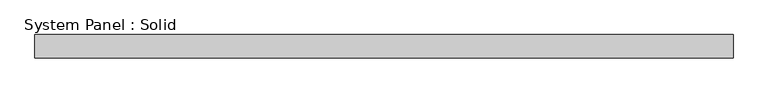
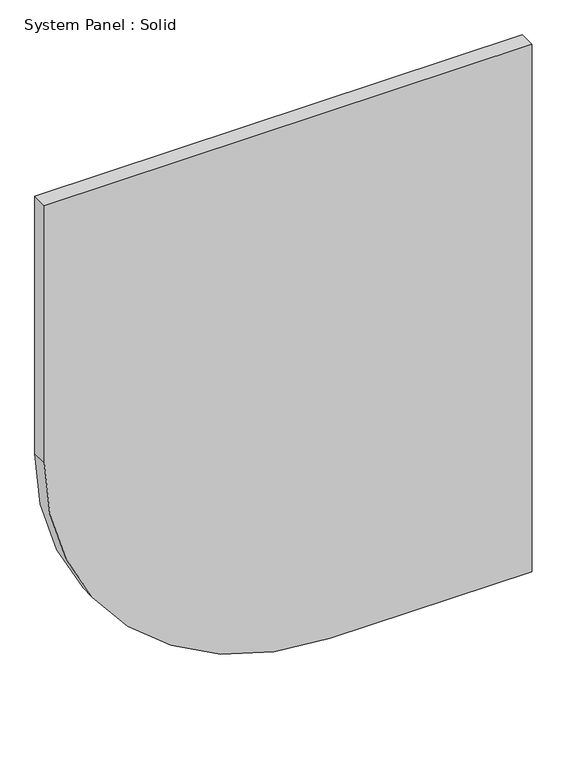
"""IFC4 building model written with IfcOpenShell, lengths in millimetres: plate geometry, System Panel : Solid."""

from ifc_helpers import new_model, si_unit, point, frame, frame_2d, origin, place, context, project, spatial, polyline, circle_curve, trimmed, segment, composite_curve, outline, extrude, source, transform, mapped, element, save


def system_panel_solid_e6f4403d(model_context):
    return source(origin(), model_context, "Body", "SweptSolid", [
        extrude(outline(composite_curve([segment(polyline([(0.0, 89.9999998), (0.0, 525.0000002), (1200.0, 525.0000002), (1200.0, -525.0000002), (615.0, -525.0000002)]), True, "CONTINUOUS"), segment(trimmed(circle_curve(frame_2d((615.0, 89.9999998)), 615.0), [point((615.0, -525.0000002))], [point((0.0, 89.9999998))], False, "CARTESIAN"), True, "CONTINUOUS")], self_intersect=False)), frame((0.0, -2.5, 0.0), z_axis=(0.0, 1.0, 0.0), x_axis=(0.0, 0.0, 1.0)), (0.0, 0.0, 1.0), 35.0),
    ])


if __name__ == "__main__":
    model = new_model("IFC4")
    model_context = context("Model", 3, world=origin())
    ifc_project = project(units=[si_unit("LENGTHUNIT", "METRE", prefix="MILLI")], contexts=[model_context])
    site = spatial("IfcSite", under=ifc_project)
    building = spatial("IfcBuilding", under=site)
    placement = place(None, origin())
    system_panel_solid_shape = system_panel_solid_e6f4403d(model_context)
    element("IfcPlate", 1, ObjectType="System Panel : Solid", at=placement, inside=building, context=model_context, shape_type="MappedRepresentation", body=[
        mapped(system_panel_solid_shape, transform((0.0, 0.0, 0.0), x_axis=(1.0, 0.0, 0.0), y_axis=(0.0, 1.0, 0.0), z_axis=(0.0, 0.0, 1.0))),
    ])
    save(model, "model.ifc")
